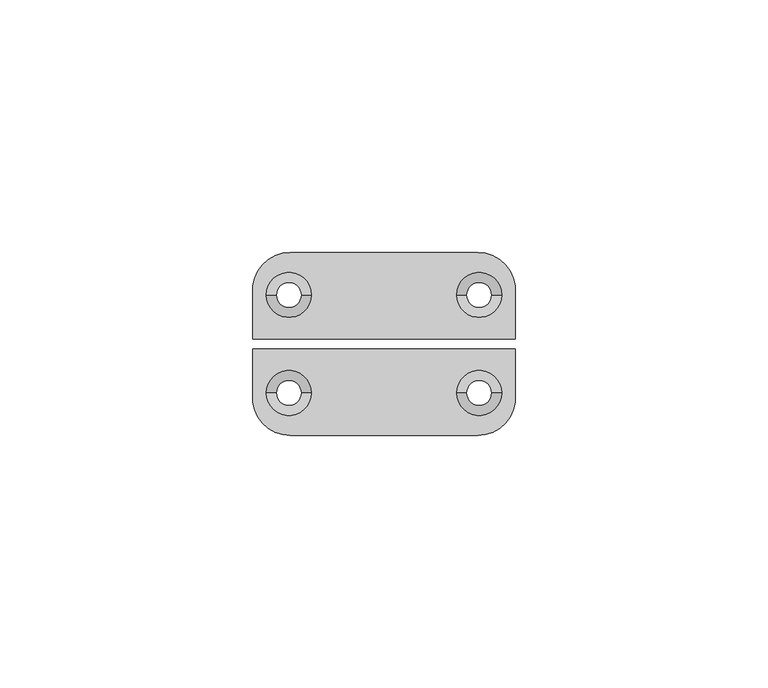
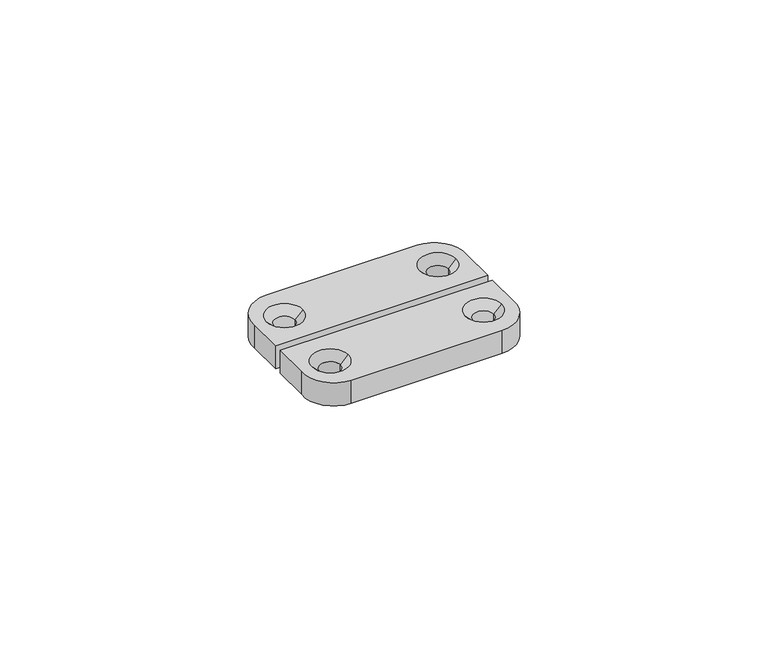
"""IFC4 building model written with IfcOpenShell, lengths in millimetres: electric appliance geometry, RBZ_Извещатель_ОхранныйМагнитоуправляемый _Рубеж_ИО 10220-2(грань) : ИО 10220-2."""

from ifc_helpers import new_model, si_unit, frame, origin, place, context, project, spatial, polyline, circle_curve, source, transform, mapped, element, save
from ifc_brep_helpers import plane_surface, cylinder_surface, revolved_surface, advanced_brep


def electric_appliance_5961a143(model_context):
    return source(origin(), model_context, "Body", "AdvancedBrep", [
        advanced_brep(
        [(-26.0, 0.0, 6.0), (-26.0, -9.0, 6.0), (-18.5180737, -17.1207114, 6.0), (18.5180737, -17.1207114, 6.0), (26.0, -9.0, 6.0), (26.0, 0.0, 6.0), (0.0, 0.0, 6.0), (-14.3630938, -8.7081462, 6.0), (-23.2614073, -8.7081462, 6.0), (23.2614073, -8.7081462, 6.0), (14.3630938, -8.7081462, 6.0), (-26.0, 0.0, 0.0), (0.0, 0.0, 0.0), (26.0, 0.0, 0.0), (26.0, -9.0, 0.0), (18.5180737, -17.1207114, 0.0), (-18.5180737, -17.1207114, 0.0), (-26.0, -9.0, 0.0), (-21.3122505, -8.7081462, 0.0), (-16.3122505, -8.7081462, 0.0), (16.3122505, -8.7081462, 0.0), (21.3122505, -8.7081462, 0.0), (-16.3122505, -8.7081462, 4.0508432), (-21.3122505, -8.7081462, 4.0508432), (16.3122505, -8.7081462, 4.0508432), (21.3122505, -8.7081462, 4.0508432)],
        [
            (0, 1),
            (1, 2, circle_curve(frame((-18.5180737, -9.6136613, 6.0), z_axis=(0.0, 0.0, 1.0), x_axis=(0.0, -1.0, 0.0)), 7.5070501)),
            (2, 3),
            (3, 4, circle_curve(frame((18.5180737, -9.6136613, 6.0), z_axis=(0.0, 0.0, 1.0), x_axis=(0.0, -1.0, 0.0)), 7.5070501)),
            (4, 5),
            (5, 6),
            (6, 0),
            (7, 8, circle_curve(frame((-18.8122505, -8.7081462, 6.0), z_axis=(0.0, 0.0, -1.0), x_axis=(-1.0, 0.0, 0.0)), 4.4491568)),
            (8, 7, circle_curve(frame((-18.8122505, -8.7081462, 6.0), z_axis=(0.0, 0.0, -1.0), x_axis=(-1.0, 0.0, 0.0)), 4.4491568)),
            (9, 10, circle_curve(frame((18.8122505, -8.7081462, 6.0), z_axis=(0.0, 0.0, -1.0), x_axis=(1.0, 0.0, 0.0)), 4.4491568)),
            (10, 9, circle_curve(frame((18.8122505, -8.7081462, 6.0), z_axis=(0.0, 0.0, -1.0), x_axis=(1.0, 0.0, 0.0)), 4.4491568)),
            (11, 12),
            (12, 13),
            (13, 14),
            (14, 15, circle_curve(frame((18.5180737, -9.6136613, 0.0), z_axis=(0.0, 0.0, -1.0), x_axis=(0.0, -1.0, 0.0)), 7.5070501)),
            (15, 16),
            (16, 17, circle_curve(frame((-18.5180737, -9.6136613, 0.0), z_axis=(0.0, 0.0, -1.0), x_axis=(0.0, -1.0, 0.0)), 7.5070501)),
            (17, 11),
            (18, 19, circle_curve(frame((-18.8122505, -8.7081462, 0.0), z_axis=(0.0, 0.0, 1.0), x_axis=(-1.0, 0.0, 0.0)), 2.5)),
            (19, 18, circle_curve(frame((-18.8122505, -8.7081462, 0.0), z_axis=(0.0, 0.0, 1.0), x_axis=(-1.0, 0.0, 0.0)), 2.5)),
            (20, 21, circle_curve(frame((18.8122505, -8.7081462, 0.0), z_axis=(0.0, 0.0, 1.0), x_axis=(1.0, 0.0, 0.0)), 2.5)),
            (21, 20, circle_curve(frame((18.8122505, -8.7081462, 0.0), z_axis=(0.0, 0.0, 1.0), x_axis=(1.0, 0.0, 0.0)), 2.5)),
            (6, 12),
            (11, 0),
            (5, 13),
            (4, 14),
            (3, 15),
            (2, 16),
            (1, 17),
            (22, 19),
            (18, 23),
            (23, 22, circle_curve(frame((-18.8122505, -8.7081462, 4.0508432), z_axis=(0.0, 0.0, 1.0), x_axis=(-1.0, 0.0, 0.0)), 2.5)),
            (22, 23, circle_curve(frame((-18.8122505, -8.7081462, 4.0508432), z_axis=(0.0, 0.0, 1.0), x_axis=(-1.0, 0.0, 0.0)), 2.5)),
            (23, 8),
            (7, 22),
            (20, 24),
            (24, 25, circle_curve(frame((18.8122505, -8.7081462, 4.0508432), z_axis=(0.0, 0.0, 1.0), x_axis=(1.0, 0.0, 0.0)), 2.5)),
            (25, 21),
            (25, 24, circle_curve(frame((18.8122505, -8.7081462, 4.0508432), z_axis=(0.0, 0.0, 1.0), x_axis=(1.0, 0.0, 0.0)), 2.5)),
            (24, 10),
            (9, 25),
        ],
        [
            plane_surface(frame((-26.0, 0.0, 6.0), z_axis=(0.0, 0.0, 1.0), x_axis=(0.0, -1.0, 0.0))),
            plane_surface(frame((-26.0, 0.0, 0.0), z_axis=(0.0, 0.0, -1.0), x_axis=(0.0, 1.0, 0.0))),
            plane_surface(frame((0.0, 0.0, 6.0), z_axis=(0.0, 1.0, 0.0), x_axis=(0.0, 0.0, -1.0))),
            plane_surface(frame((26.0, 0.0, 6.0), z_axis=(-1.9434992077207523e-12, 1.0, 0.0), x_axis=(0.0, 0.0, -1.0))),
            plane_surface(frame((26.0, -9.0, 6.0), z_axis=(1.0, 0.0, 0.0), x_axis=(0.0, 0.0, -1.0))),
            cylinder_surface(frame((18.5180737, -9.6136613, 0.0), z_axis=(0.0, 0.0, 1.0), x_axis=(0.0, -1.0, 0.0)), 7.5070501),
            plane_surface(frame((-18.5180737, -17.1207114, 6.0), z_axis=(0.0, -1.0, 0.0), x_axis=(0.0, 0.0, -1.0))),
            cylinder_surface(frame((-18.5180737, -9.6136613, 0.0), z_axis=(0.0, 0.0, 1.0), x_axis=(0.0, -1.0, 0.0)), 7.5070501),
            plane_surface(frame((-26.0, 0.0, 6.0), z_axis=(-1.0, 0.0, 0.0), x_axis=(0.0, 0.0, -1.0))),
            revolved_surface(polyline([(-21.3122505, -8.7081462, 4.0508432), (-21.3122505, -8.7081462, 0.0)]), (-18.8122505, -8.7081462, 7.0106623), (0.0, 0.0, 1.0)),
            revolved_surface(polyline([(-23.2614073, -8.7081462, 6.0), (-21.3122505, -8.7081462, 4.0508432)]), (-18.8122505, -8.7081462, 7.0106623), (0.0, 0.0, 1.0)),
            revolved_surface(polyline([(21.3122505, -8.7081462, 0.0), (21.3122505, -8.7081462, 4.0508432)]), (18.8122505, -8.7081462, 7.0106623), (0.0, 0.0, -1.0)),
            revolved_surface(polyline([(21.3122505, -8.7081462, 4.0508432), (23.2614073, -8.7081462, 6.0)]), (18.8122505, -8.7081462, 7.0106623), (0.0, 0.0, -1.0)),
        ],
        [
            (0, [[1, 2, 3, 4, 5, 6, 7], [8, 9], [10, 11]]),
            (1, [[12, 13, 14, 15, 16, 17, 18], [19, 20], [21, 22]]),
            (2, [[-7, 23, -12, 24]]),
            (3, [[-6, 25, -13, -23]]),
            (4, [[-5, 26, -14, -25]]),
            (5, [[-4, 27, -15, -26]]),
            (6, [[-3, 28, -16, -27]]),
            (7, [[-2, 29, -17, -28]]),
            (8, [[-1, -24, -18, -29]]),
            (9, [[30, -19, 31, 32]]),
            (9, [[-30, 33, -31, -20]]),
            (10, [[-32, 34, -8, 35]]),
            (10, [[-33, -35, -9, -34]]),
            (11, [[36, 37, 38, -21]]),
            (11, [[-36, -22, -38, 39]]),
            (12, [[-37, 40, -10, 41]]),
            (12, [[-39, -41, -11, -40]]),
        ],
    ),
        advanced_brep(
        [(-26.0, 2.0, 6.0), (26.0, 2.0, 6.0), (26.0, 11.0, 6.0), (18.5180737, 19.1207114, 6.0), (0.0, 19.1207114, 6.0), (-18.5180737, 19.1207114, 6.0), (-26.0, 11.0, 6.0), (-23.2614073, 10.7081462, 6.0), (-14.3630938, 10.7081462, 6.0), (14.3630938, 10.7081462, 6.0), (23.2614073, 10.7081462, 6.0), (-26.0, 2.0, 0.0), (-26.0, 11.0, 0.0), (-18.5180737, 19.1207114, 0.0), (0.0, 19.1207114, 0.0), (18.5180737, 19.1207114, 0.0), (26.0, 11.0, 0.0), (26.0, 2.0, 0.0), (-16.3122505, 10.7081462, 0.0), (-21.3122505, 10.7081462, 0.0), (21.3122505, 10.7081462, 0.0), (16.3122505, 10.7081462, 0.0), (-16.3122505, 10.7081462, 4.0508432), (-21.3122505, 10.7081462, 4.0508432), (16.3122505, 10.7081462, 4.0508432), (21.3122505, 10.7081462, 4.0508432)],
        [
            (0, 1),
            (1, 2),
            (2, 3, circle_curve(frame((18.5180737, 11.6136613, 6.0), z_axis=(0.0, 0.0, 1.0), x_axis=(0.0, -1.0, 0.0)), 7.5070501)),
            (3, 4),
            (4, 5),
            (5, 6, circle_curve(frame((-18.5180737, 11.6136613, 6.0), z_axis=(0.0, 0.0, 1.0), x_axis=(0.0, -1.0, 0.0)), 7.5070501)),
            (6, 0),
            (7, 8, circle_curve(frame((-18.8122505, 10.7081462, 6.0), z_axis=(0.0, 0.0, -1.0), x_axis=(-1.0, 0.0, 0.0)), 4.4491568)),
            (8, 7, circle_curve(frame((-18.8122505, 10.7081462, 6.0), z_axis=(0.0, 0.0, -1.0), x_axis=(-1.0, 0.0, 0.0)), 4.4491568)),
            (9, 10, circle_curve(frame((18.8122505, 10.7081462, 6.0), z_axis=(0.0, 0.0, -1.0), x_axis=(1.0, 0.0, 0.0)), 4.4491568)),
            (10, 9, circle_curve(frame((18.8122505, 10.7081462, 6.0), z_axis=(0.0, 0.0, -1.0), x_axis=(1.0, 0.0, 0.0)), 4.4491568)),
            (11, 12),
            (12, 13, circle_curve(frame((-18.5180737, 11.6136613, 0.0), z_axis=(0.0, 0.0, -1.0), x_axis=(0.0, -1.0, 0.0)), 7.5070501)),
            (13, 14),
            (14, 15),
            (15, 16, circle_curve(frame((18.5180737, 11.6136613, 0.0), z_axis=(0.0, 0.0, -1.0), x_axis=(0.0, -1.0, 0.0)), 7.5070501)),
            (16, 17),
            (17, 11),
            (18, 19, circle_curve(frame((-18.8122505, 10.7081462, 0.0), z_axis=(0.0, 0.0, 1.0), x_axis=(-1.0, 0.0, 0.0)), 2.5)),
            (19, 18, circle_curve(frame((-18.8122505, 10.7081462, 0.0), z_axis=(0.0, 0.0, 1.0), x_axis=(-1.0, 0.0, 0.0)), 2.5)),
            (20, 21, circle_curve(frame((18.8122505, 10.7081462, 0.0), z_axis=(0.0, 0.0, 1.0), x_axis=(1.0, 0.0, 0.0)), 2.5)),
            (21, 20, circle_curve(frame((18.8122505, 10.7081462, 0.0), z_axis=(0.0, 0.0, 1.0), x_axis=(1.0, 0.0, 0.0)), 2.5)),
            (0, 11),
            (17, 1),
            (16, 2),
            (15, 3),
            (14, 4),
            (13, 5),
            (12, 6),
            (18, 22),
            (22, 23, circle_curve(frame((-18.8122505, 10.7081462, 4.0508432), z_axis=(0.0, 0.0, 1.0), x_axis=(-1.0, 0.0, 0.0)), 2.5)),
            (23, 19),
            (23, 22, circle_curve(frame((-18.8122505, 10.7081462, 4.0508432), z_axis=(0.0, 0.0, 1.0), x_axis=(-1.0, 0.0, 0.0)), 2.5)),
            (22, 8),
            (7, 23),
            (24, 21),
            (20, 25),
            (25, 24, circle_curve(frame((18.8122505, 10.7081462, 4.0508432), z_axis=(0.0, 0.0, 1.0), x_axis=(1.0, 0.0, 0.0)), 2.5)),
            (24, 25, circle_curve(frame((18.8122505, 10.7081462, 4.0508432), z_axis=(0.0, 0.0, 1.0), x_axis=(1.0, 0.0, 0.0)), 2.5)),
            (25, 10),
            (9, 24),
        ],
        [
            plane_surface(frame((26.0, 2.0, 6.0), z_axis=(0.0, 0.0, 1.0), x_axis=(1.0, 0.0, 0.0))),
            plane_surface(frame((26.0, 2.0, 0.0), z_axis=(0.0, 0.0, -1.0), x_axis=(-1.0, 0.0, 0.0))),
            plane_surface(frame((-26.0, 2.0, 6.0), z_axis=(0.0, -1.0, 0.0), x_axis=(0.0, 0.0, -1.0))),
            plane_surface(frame((26.0, 2.0, 6.0), z_axis=(1.0, 0.0, 0.0), x_axis=(0.0, 0.0, -1.0))),
            cylinder_surface(frame((18.5180737, 11.6136613, 0.0), z_axis=(0.0, 0.0, 1.0), x_axis=(0.0, -1.0, 0.0)), 7.5070501),
            plane_surface(frame((18.5180737, 19.1207114, 6.0), z_axis=(0.0, 1.0, 0.0), x_axis=(0.0, 0.0, -1.0))),
            plane_surface(frame((0.0, 19.1207114, 6.0), z_axis=(0.0, 1.0, 0.0), x_axis=(0.0, 0.0, -1.0))),
            cylinder_surface(frame((-18.5180737, 11.6136613, 0.0), z_axis=(0.0, 0.0, 1.0), x_axis=(0.0, -1.0, 0.0)), 7.5070501),
            plane_surface(frame((-26.0, 11.0, 6.0), z_axis=(-1.0, 0.0, 0.0), x_axis=(0.0, 0.0, -1.0))),
            revolved_surface(polyline([(-21.3122505, 10.7081462, 0.0), (-21.3122505, 10.7081462, 4.0508432)]), (-18.8122505, 10.7081462, 7.0106623), (0.0, 0.0, -1.0)),
            revolved_surface(polyline([(-21.3122505, 10.7081462, 4.0508432), (-23.2614073, 10.7081462, 6.0)]), (-18.8122505, 10.7081462, 7.0106623), (0.0, 0.0, -1.0)),
            revolved_surface(polyline([(21.3122505, 10.7081462, 4.0508432), (21.3122505, 10.7081462, 0.0)]), (18.8122505, 10.7081462, 7.0106623), (0.0, 0.0, 1.0)),
            revolved_surface(polyline([(23.2614073, 10.7081462, 6.0), (21.3122505, 10.7081462, 4.0508432)]), (18.8122505, 10.7081462, 7.0106623), (0.0, 0.0, 1.0)),
        ],
        [
            (0, [[1, 2, 3, 4, 5, 6, 7], [8, 9], [10, 11]]),
            (1, [[12, 13, 14, 15, 16, 17, 18], [19, 20], [21, 22]]),
            (2, [[-1, 23, -18, 24]]),
            (3, [[-2, -24, -17, 25]]),
            (4, [[-3, -25, -16, 26]]),
            (5, [[-4, -26, -15, 27]]),
            (6, [[-5, -27, -14, 28]]),
            (7, [[-6, -28, -13, 29]]),
            (8, [[-7, -29, -12, -23]]),
            (9, [[30, 31, 32, -19]]),
            (9, [[-30, -20, -32, 33]]),
            (10, [[-31, 34, -8, 35]]),
            (10, [[-33, -35, -9, -34]]),
            (11, [[36, -21, 37, 38]]),
            (11, [[-36, 39, -37, -22]]),
            (12, [[-38, 40, -10, 41]]),
            (12, [[-39, -41, -11, -40]]),
        ],
    ),
    ])


if __name__ == "__main__":
    model = new_model("IFC4")
    model_context = context("Model", 3, world=origin())
    ifc_project = project(units=[si_unit("LENGTHUNIT", "METRE", prefix="MILLI")], contexts=[model_context])
    site = spatial("IfcSite", under=ifc_project)
    building = spatial("IfcBuilding", under=site)
    placement = place(None, origin())
    electric_appliance_shape = electric_appliance_5961a143(model_context)
    element("IfcElectricAppliance", 1, ObjectType="RBZ_Извещатель_ОхранныйМагнитоуправляемый _Рубеж_ИО 10220-2(грань) : ИО 10220-2", at=placement, inside=building, context=model_context, shape_type="MappedRepresentation", body=[
        mapped(electric_appliance_shape, transform((0.0, 0.0, 0.0), x_axis=(1.0, 0.0, 0.0), y_axis=(0.0, 1.0, 0.0), z_axis=(0.0, 0.0, 1.0))),
    ])
    save(model, "model.ifc")
